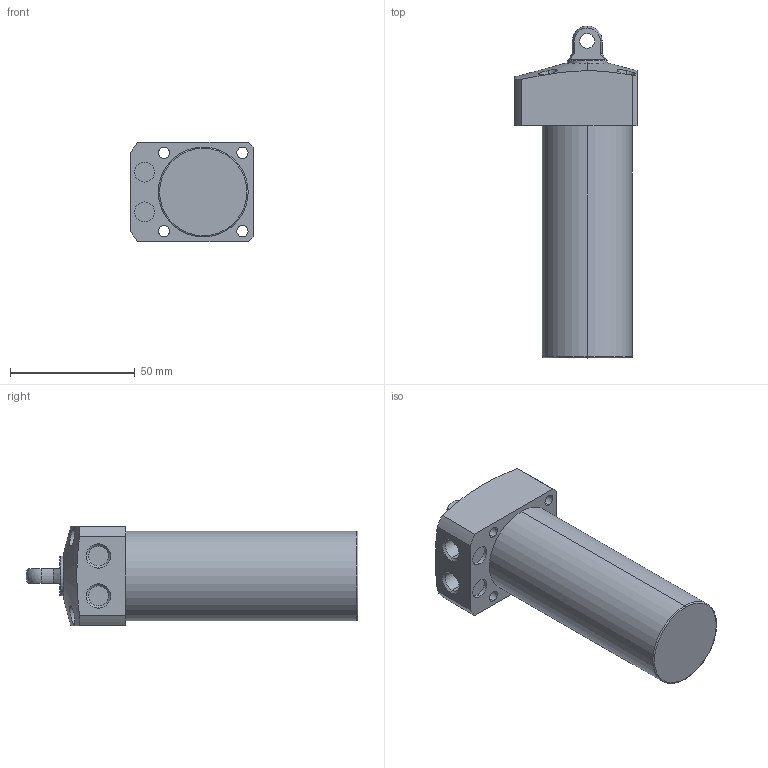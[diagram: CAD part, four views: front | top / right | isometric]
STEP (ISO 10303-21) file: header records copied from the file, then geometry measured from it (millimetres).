
FILE_DESCRIPTION (( 'STEP AP203' ), '1' );
FILE_NAME ('CLL036-CP-070.STEP', '2017-05-17T06:24:41', ( '' ), ( '' ), 'SwSTEP 2.0', 'SolidWorks 2015', '' );
FILE_SCHEMA (( 'CONFIG_CONTROL_DESIGN' ));
Length unit declared in the file: millimetre
Products named in the file (1): CLL036-CP-070
Bounding box: 49 x 133 x 40 mm (x, y, z)
Volume: 136051.2 mm3; surface area: 20565.9 mm2
Topology: 1 solids, 1 shells, 67 faces, 162 edges, 105 vertices
Faces by surface type: cylinder 34, plane 21, cone 8, sphere 2, torus 2
Entity records: 2347 total; most frequent: CARTESIAN_POINT 663, DIRECTION 354, ORIENTED_EDGE 316, EDGE_CURVE 158, AXIS2_PLACEMENT_3D 148, VERTEX_POINT 103, EDGE_LOOP 87, CIRCLE 80
